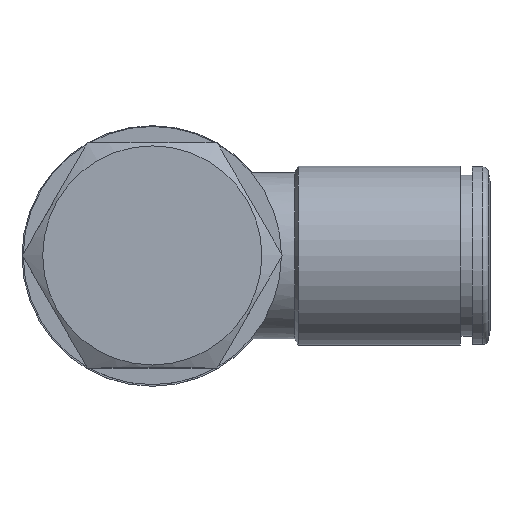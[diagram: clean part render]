
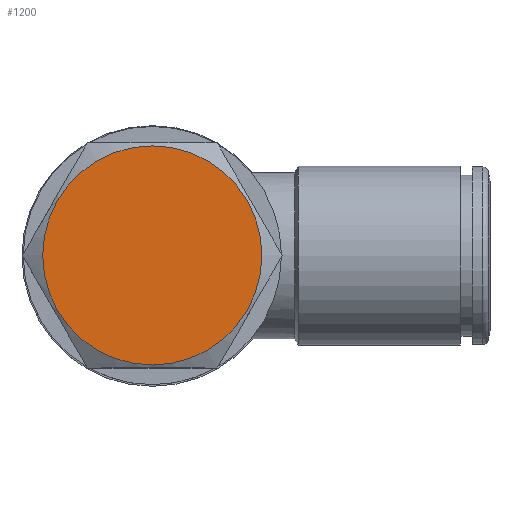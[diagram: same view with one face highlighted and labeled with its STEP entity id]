
A CAD part, top view. The second image highlights one B-rep face of the part: STEP entity #1200.
In plain terms, the highlighted planar face has unit normal (0, 0, 1).
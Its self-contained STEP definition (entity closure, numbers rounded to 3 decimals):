
#1200=ADVANCED_FACE('', (#1210), #1220, .T.);
#5160=AXIS2_PLACEMENT_3D('Ax2Pl3d', #5170, #5180, #5190);
#5520=AXIS2_PLACEMENT_3D('Ax2Pl3d', #5530, #5540, #5550);
#5170=CARTESIAN_POINT('HicPkt', (21.932,18.225,
59.967));
#51700=CARTESIAN_POINT('', (21.932,8.975,59.967));
#5530=CARTESIAN_POINT('HicPkt', (31.182,18.225,
59.967));
#52690=CIRCLE('Circle', #5160, 9.25);
#5180=DIRECTION('Axis', (0.,0.,-1.));
#5190=DIRECTION('RefDirection', (-1.,-0.,0.));
#5540=DIRECTION('Axis', (0.,0.,1.));
#5550=DIRECTION('RefDirection', (1.,0.,-0.));
#58070=EDGE_CURVE('', #58080, #58080, #52690, .T.);
#60970=EDGE_LOOP('Edge_loop', (#60980));
#1210=FACE_OUTER_BOUND('Face_outer_bound', #60970, .T.);
#60980=ORIENTED_EDGE('', *, *, #58070, .F.);
#1220=PLANE('Plane', #5520);
#58080=VERTEX_POINT('', #51700);
